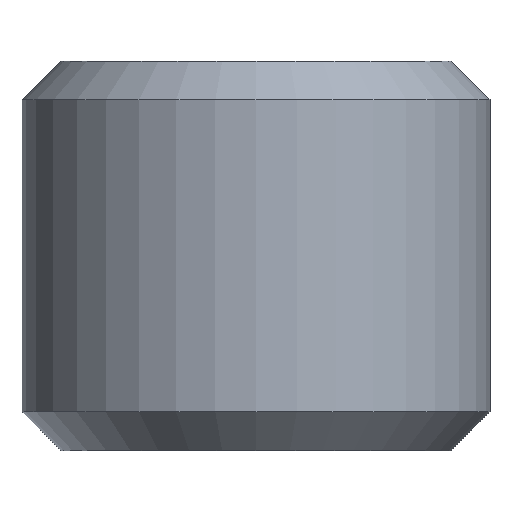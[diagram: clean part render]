
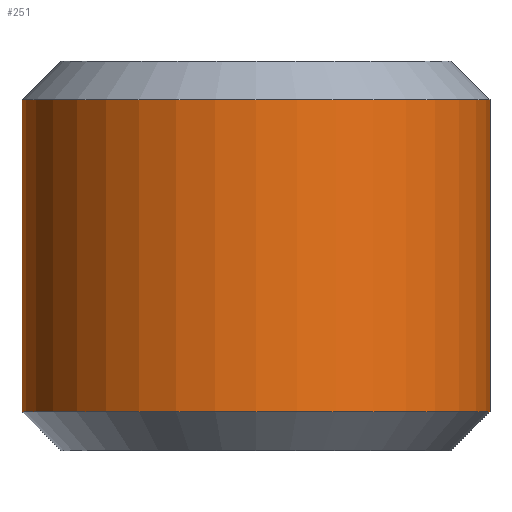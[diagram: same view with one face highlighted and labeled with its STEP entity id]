
A CAD part, front view. The second image highlights one B-rep face of the part: STEP entity #251.
In plain terms, the highlighted cylindrical face has radius 6 mm (diameter 12 mm), a partial arc.
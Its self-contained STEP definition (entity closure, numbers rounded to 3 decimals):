
#4 = EDGE_CURVE ( 'NONE', #165, #153, #5, .T. ) ;
#5 = CIRCLE ( 'NONE', #368, 6. ) ;
#7 = LINE ( 'NONE', #382, #291 ) ;
#20 = DIRECTION ( 'NONE',  ( 1., 0., 0. ) ) ;
#33 = EDGE_LOOP ( 'NONE', ( #194, #271, #122, #327 ) ) ;
#51 = AXIS2_PLACEMENT_3D ( 'NONE', #340, #387, #20 ) ;
#94 = EDGE_CURVE ( 'NONE', #153, #181, #7, .T. ) ;
#117 = AXIS2_PLACEMENT_3D ( 'NONE', #172, #345, #284 ) ;
#122 = ORIENTED_EDGE ( 'NONE', *, *, #94, .T. ) ;
#142 = CIRCLE ( 'NONE', #51, 6. ) ;
#153 = VERTEX_POINT ( 'NONE', #402 ) ;
#158 = CYLINDRICAL_SURFACE ( 'NONE', #117, 6. ) ;
#161 = FACE_OUTER_BOUND ( 'NONE', #33, .T. ) ;
#163 = LINE ( 'NONE', #323, #269 ) ;
#165 = VERTEX_POINT ( 'NONE', #309 ) ;
#172 = CARTESIAN_POINT ( 'NONE',  ( 0., 0., 10. ) ) ;
#181 = VERTEX_POINT ( 'NONE', #187 ) ;
#187 = CARTESIAN_POINT ( 'NONE',  ( -6., 0., 1. ) ) ;
#194 = ORIENTED_EDGE ( 'NONE', *, *, #211, .F. ) ;
#211 = EDGE_CURVE ( 'NONE', #165, #247, #163, .T. ) ;
#247 = VERTEX_POINT ( 'NONE', #299 ) ;
#251 = ADVANCED_FACE ( 'NONE', ( #161 ), #158, .T. ) ;
#269 = VECTOR ( 'NONE', #377, 1000. ) ;
#271 = ORIENTED_EDGE ( 'NONE', *, *, #4, .T. ) ;
#284 = DIRECTION ( 'NONE',  ( -1., 0., 0. ) ) ;
#288 = DIRECTION ( 'NONE',  ( 0., 0., -1. ) ) ;
#291 = VECTOR ( 'NONE', #317, 1000. ) ;
#292 = CARTESIAN_POINT ( 'NONE',  ( 0., 0., 9. ) ) ;
#299 = CARTESIAN_POINT ( 'NONE',  ( 6., 0., 1. ) ) ;
#309 = CARTESIAN_POINT ( 'NONE',  ( 6., 0., 9. ) ) ;
#317 = DIRECTION ( 'NONE',  ( 0., 0., -1. ) ) ;
#323 = CARTESIAN_POINT ( 'NONE',  ( 6., 0., 10. ) ) ;
#327 = ORIENTED_EDGE ( 'NONE', *, *, #334, .T. ) ;
#334 = EDGE_CURVE ( 'NONE', #181, #247, #142, .T. ) ;
#340 = CARTESIAN_POINT ( 'NONE',  ( 0., 0., 1. ) ) ;
#345 = DIRECTION ( 'NONE',  ( 0., 0., -1. ) ) ;
#368 = AXIS2_PLACEMENT_3D ( 'NONE', #292, #288, #426 ) ;
#377 = DIRECTION ( 'NONE',  ( 0., 0., -1. ) ) ;
#382 = CARTESIAN_POINT ( 'NONE',  ( -6., 0., 10. ) ) ;
#387 = DIRECTION ( 'NONE',  ( 0., 0., 1. ) ) ;
#402 = CARTESIAN_POINT ( 'NONE',  ( -6., 0., 9. ) ) ;
#426 = DIRECTION ( 'NONE',  ( 1., 0., 0. ) ) ;
